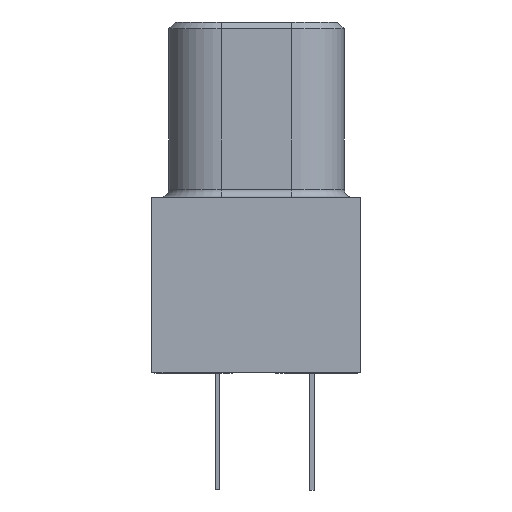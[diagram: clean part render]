
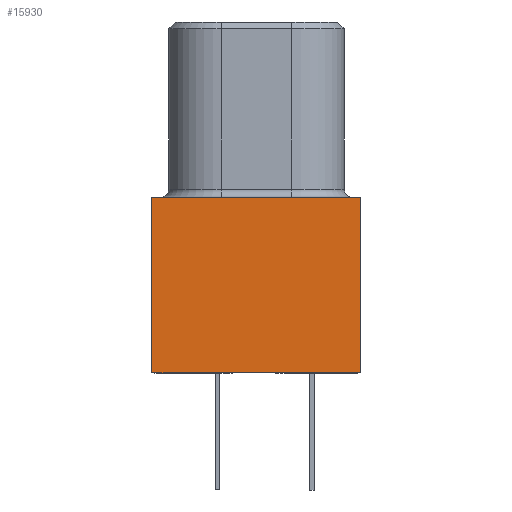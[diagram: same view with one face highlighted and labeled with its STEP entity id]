
A CAD part, left-side view. The second image highlights one B-rep face of the part: STEP entity #15930.
In plain terms, the highlighted planar face has unit normal (-1, 0, 0).
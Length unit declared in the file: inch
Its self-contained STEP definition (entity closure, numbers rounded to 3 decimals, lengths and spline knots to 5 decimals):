
#577 = VECTOR ( 'NONE', #31471, 39.37008 ) ;
#1420 = EDGE_LOOP ( 'NONE', ( #28139, #43192, #14233, #5820 ) ) ;
#5574 = CARTESIAN_POINT ( 'NONE',  ( -0.45, -0.0575, 0. ) ) ;
#5820 = ORIENTED_EDGE ( 'NONE', *, *, #34623, .F. ) ;
#6076 = CARTESIAN_POINT ( 'NONE',  ( -0.45, -0.0575, 0.105 ) ) ;
#6650 = CARTESIAN_POINT ( 'NONE',  ( -0.45, 0.0675, 0.105 ) ) ;
#8367 = VECTOR ( 'NONE', #33653, 39.37008 ) ;
#9021 = FACE_OUTER_BOUND ( 'NONE', #1420, .T. ) ;
#9042 = CARTESIAN_POINT ( 'NONE',  ( -0.45, -0.0575, 0.105 ) ) ;
#11199 = CARTESIAN_POINT ( 'NONE',  ( -0.45, -0.0575, 0. ) ) ;
#12174 = VECTOR ( 'NONE', #20619, 39.37008 ) ;
#12745 = LINE ( 'NONE', #9042, #8367 ) ;
#14233 = ORIENTED_EDGE ( 'NONE', *, *, #39210, .T. ) ;
#15930 = ADVANCED_FACE ( 'NONE', ( #9021 ), #23006, .F. ) ;
#17498 = VERTEX_POINT ( 'NONE', #5574 ) ;
#17917 = VERTEX_POINT ( 'NONE', #18903 ) ;
#18903 = CARTESIAN_POINT ( 'NONE',  ( -0.45, -0.0575, -0.105 ) ) ;
#19790 = CARTESIAN_POINT ( 'NONE',  ( -0.45, 0.0675, -0.105 ) ) ;
#20619 = DIRECTION ( 'NONE',  ( 0., 0., -1. ) ) ;
#21859 = VERTEX_POINT ( 'NONE', #28177 ) ;
#23006 = PLANE ( 'NONE',  #29847 ) ;
#24474 = LINE ( 'NONE', #11199, #577 ) ;
#26164 = DIRECTION ( 'NONE',  ( 0., -1., 0. ) ) ;
#28139 = ORIENTED_EDGE ( 'NONE', *, *, #37530, .F. ) ;
#28177 = CARTESIAN_POINT ( 'NONE',  ( -0.45, 0.0675, 0. ) ) ;
#29548 = LINE ( 'NONE', #43500, #37057 ) ;
#29847 = AXIS2_PLACEMENT_3D ( 'NONE', #6076, #33855, #45090 ) ;
#31471 = DIRECTION ( 'NONE',  ( 0., -1., 0. ) ) ;
#33653 = DIRECTION ( 'NONE',  ( 0., 0., -1. ) ) ;
#33855 = DIRECTION ( 'NONE',  ( 1., 0., 0. ) ) ;
#34623 = EDGE_CURVE ( 'NONE', #17498, #17917, #12745, .T. ) ;
#36268 = VERTEX_POINT ( 'NONE', #19790 ) ;
#37057 = VECTOR ( 'NONE', #26164, 39.37008 ) ;
#37530 = EDGE_CURVE ( 'NONE', #21859, #17498, #24474, .T. ) ;
#39210 = EDGE_CURVE ( 'NONE', #36268, #17917, #29548, .T. ) ;
#41805 = EDGE_CURVE ( 'NONE', #21859, #36268, #45024, .T. ) ;
#43192 = ORIENTED_EDGE ( 'NONE', *, *, #41805, .T. ) ;
#43500 = CARTESIAN_POINT ( 'NONE',  ( -0.45, -0.0575, -0.105 ) ) ;
#45024 = LINE ( 'NONE', #6650, #12174 ) ;
#45090 = DIRECTION ( 'NONE',  ( 0., 1., 0. ) ) ;
